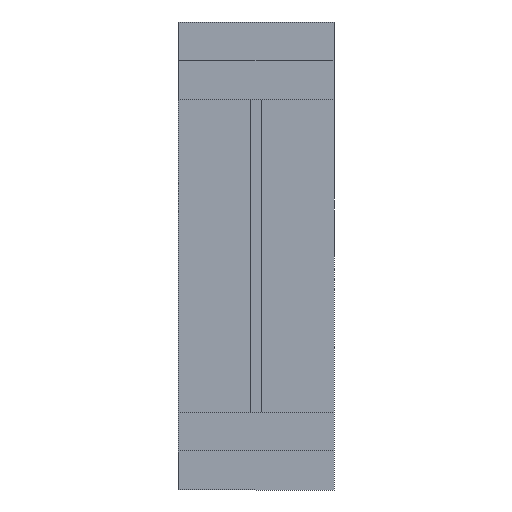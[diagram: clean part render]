
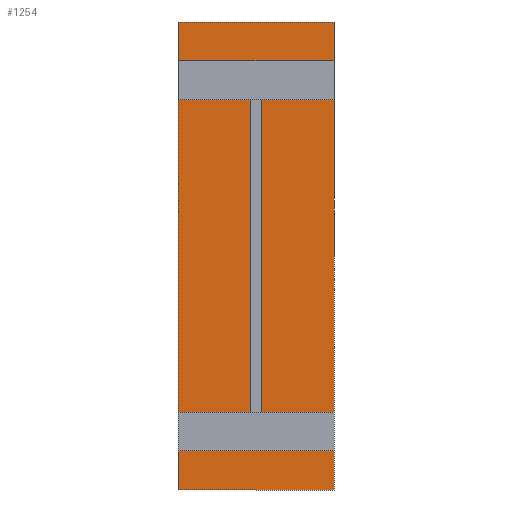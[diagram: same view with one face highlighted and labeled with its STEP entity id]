
A CAD part, front view. The second image highlights one B-rep face of the part: STEP entity #1254.
In plain terms, the highlighted planar face has unit normal (0, -1, 0).
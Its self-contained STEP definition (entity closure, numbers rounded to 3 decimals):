
#4 = VERTEX_POINT ( 'NONE', #891 ) ;
#7 = CARTESIAN_POINT ( 'NONE',  ( 190., 205., 900. ) ) ;
#12 = EDGE_CURVE ( 'NONE', #1295, #67, #103, .T. ) ;
#26 = CARTESIAN_POINT ( 'NONE',  ( 200., 205., 1100. ) ) ;
#40 = DIRECTION ( 'NONE',  ( 0., 0., 1. ) ) ;
#42 = CARTESIAN_POINT ( 'NONE',  ( -200., 205., 1000. ) ) ;
#44 = ORIENTED_EDGE ( 'NONE', *, *, #501, .F. ) ;
#53 = CARTESIAN_POINT ( 'NONE',  ( -190., 205., 100. ) ) ;
#58 = VECTOR ( 'NONE', #1591, 1000. ) ;
#67 = VERTEX_POINT ( 'NONE', #1598 ) ;
#77 = VERTEX_POINT ( 'NONE', #282 ) ;
#103 = LINE ( 'NONE', #649, #1298 ) ;
#113 = CARTESIAN_POINT ( 'NONE',  ( -200., 205., 900. ) ) ;
#124 = LINE ( 'NONE', #1061, #424 ) ;
#126 = DIRECTION ( 'NONE',  ( 0., 0., 1. ) ) ;
#128 = CARTESIAN_POINT ( 'NONE',  ( 200., 205., -100. ) ) ;
#129 = LINE ( 'NONE', #554, #1166 ) ;
#142 = EDGE_CURVE ( 'NONE', #298, #4, #129, .T. ) ;
#155 = ORIENTED_EDGE ( 'NONE', *, *, #1744, .F. ) ;
#176 = DIRECTION ( 'NONE',  ( 1., 0., 0. ) ) ;
#193 = VECTOR ( 'NONE', #1296, 1000. ) ;
#206 = CARTESIAN_POINT ( 'NONE',  ( -200., 205., 900. ) ) ;
#217 = DIRECTION ( 'NONE',  ( -1., 0., 0. ) ) ;
#218 = DIRECTION ( 'NONE',  ( 0., 0., 1. ) ) ;
#243 = VECTOR ( 'NONE', #1101, 1000. ) ;
#281 = CARTESIAN_POINT ( 'NONE',  ( -200., 205., 100. ) ) ;
#282 = CARTESIAN_POINT ( 'NONE',  ( -190., 205., 900. ) ) ;
#296 = CARTESIAN_POINT ( 'NONE',  ( -190., 205., 100. ) ) ;
#297 = EDGE_CURVE ( 'NONE', #1536, #1685, #1433, .T. ) ;
#298 = VERTEX_POINT ( 'NONE', #1187 ) ;
#307 = LINE ( 'NONE', #980, #243 ) ;
#308 = CARTESIAN_POINT ( 'NONE',  ( 200., 205., 900. ) ) ;
#333 = ORIENTED_EDGE ( 'NONE', *, *, #1604, .F. ) ;
#335 = ORIENTED_EDGE ( 'NONE', *, *, #1264, .F. ) ;
#342 = LINE ( 'NONE', #206, #1209 ) ;
#382 = VECTOR ( 'NONE', #490, 1000. ) ;
#383 = CARTESIAN_POINT ( 'NONE',  ( 190., 205., 1000. ) ) ;
#386 = LINE ( 'NONE', #921, #601 ) ;
#392 = CARTESIAN_POINT ( 'NONE',  ( -200., 205., 0. ) ) ;
#399 = DIRECTION ( 'NONE',  ( 0., 0., 1. ) ) ;
#408 = EDGE_CURVE ( 'NONE', #1161, #1249, #1490, .T. ) ;
#424 = VECTOR ( 'NONE', #805, 1000. ) ;
#432 = EDGE_CURVE ( 'NONE', #588, #1680, #1255, .T. ) ;
#477 = ORIENTED_EDGE ( 'NONE', *, *, #408, .F. ) ;
#489 = EDGE_CURVE ( 'NONE', #1680, #1389, #307, .T. ) ;
#490 = DIRECTION ( 'NONE',  ( 0., 0., -1. ) ) ;
#494 = DIRECTION ( 'NONE',  ( 1., 0., 0. ) ) ;
#501 = EDGE_CURVE ( 'NONE', #992, #1472, #1649, .T. ) ;
#524 = VECTOR ( 'NONE', #602, 1000. ) ;
#529 = DIRECTION ( 'NONE',  ( 0., 1., 0. ) ) ;
#531 = DIRECTION ( 'NONE',  ( 0., 0., -1. ) ) ;
#532 = EDGE_CURVE ( 'NONE', #67, #1579, #1408, .T. ) ;
#533 = CARTESIAN_POINT ( 'NONE',  ( -200., 205., 0. ) ) ;
#535 = VECTOR ( 'NONE', #218, 1000. ) ;
#538 = CARTESIAN_POINT ( 'NONE',  ( 200., 205., 900. ) ) ;
#539 = VECTOR ( 'NONE', #1346, 1000. ) ;
#540 = VECTOR ( 'NONE', #820, 1000. ) ;
#543 = ORIENTED_EDGE ( 'NONE', *, *, #1650, .F. ) ;
#544 = LINE ( 'NONE', #1040, #1723 ) ;
#554 = CARTESIAN_POINT ( 'NONE',  ( 200., 205., 100. ) ) ;
#562 = PLANE ( 'NONE',  #1147 ) ;
#582 = CARTESIAN_POINT ( 'NONE',  ( 200., 205., 1100. ) ) ;
#588 = VERTEX_POINT ( 'NONE', #1305 ) ;
#589 = LINE ( 'NONE', #53, #841 ) ;
#601 = VECTOR ( 'NONE', #1456, 1000. ) ;
#602 = DIRECTION ( 'NONE',  ( 1., 0., 0. ) ) ;
#649 = CARTESIAN_POINT ( 'NONE',  ( 200., 205., 0. ) ) ;
#671 = ORIENTED_EDGE ( 'NONE', *, *, #1570, .F. ) ;
#691 = CARTESIAN_POINT ( 'NONE',  ( 0., 205., 0. ) ) ;
#707 = ORIENTED_EDGE ( 'NONE', *, *, #952, .F. ) ;
#716 = EDGE_LOOP ( 'NONE', ( #477, #964, #800, #924, #671, #1281, #707, #44, #1246, #1261, #1476, #1442, #1278, #1121, #1269, #543, #155, #333, #335, #731 ) ) ;
#719 = VECTOR ( 'NONE', #176, 1000. ) ;
#731 = ORIENTED_EDGE ( 'NONE', *, *, #1539, .F. ) ;
#748 = CARTESIAN_POINT ( 'NONE',  ( 200., 205., -100. ) ) ;
#759 = VECTOR ( 'NONE', #126, 1000. ) ;
#786 = VECTOR ( 'NONE', #217, 1000. ) ;
#800 = ORIENTED_EDGE ( 'NONE', *, *, #532, .F. ) ;
#805 = DIRECTION ( 'NONE',  ( -1., 0., 0. ) ) ;
#820 = DIRECTION ( 'NONE',  ( -1., 0., 0. ) ) ;
#841 = VECTOR ( 'NONE', #40, 1000. ) ;
#885 = VERTEX_POINT ( 'NONE', #113 ) ;
#891 = CARTESIAN_POINT ( 'NONE',  ( 190., 205., 100. ) ) ;
#901 = LINE ( 'NONE', #1583, #535 ) ;
#908 = VERTEX_POINT ( 'NONE', #383 ) ;
#921 = CARTESIAN_POINT ( 'NONE',  ( -200., 205., 1100. ) ) ;
#924 = ORIENTED_EDGE ( 'NONE', *, *, #12, .F. ) ;
#928 = CARTESIAN_POINT ( 'NONE',  ( 190., 205., 100. ) ) ;
#932 = DIRECTION ( 'NONE',  ( 0., 0., -1. ) ) ;
#944 = CARTESIAN_POINT ( 'NONE',  ( 200., 205., 1000. ) ) ;
#951 = LINE ( 'NONE', #1343, #719 ) ;
#952 = EDGE_CURVE ( 'NONE', #1472, #298, #1341, .T. ) ;
#963 = DIRECTION ( 'NONE',  ( 1., 0., 0. ) ) ;
#964 = ORIENTED_EDGE ( 'NONE', *, *, #1318, .F. ) ;
#968 = CARTESIAN_POINT ( 'NONE',  ( 190., 205., 900. ) ) ;
#980 = CARTESIAN_POINT ( 'NONE',  ( 200., 205., 1100. ) ) ;
#992 = VERTEX_POINT ( 'NONE', #7 ) ;
#1040 = CARTESIAN_POINT ( 'NONE',  ( 190., 205., 1000. ) ) ;
#1048 = CARTESIAN_POINT ( 'NONE',  ( 200., 205., -100. ) ) ;
#1061 = CARTESIAN_POINT ( 'NONE',  ( -200., 205., 100. ) ) ;
#1064 = EDGE_CURVE ( 'NONE', #77, #1536, #901, .T. ) ;
#1080 = LINE ( 'NONE', #944, #540 ) ;
#1082 = VECTOR ( 'NONE', #963, 1000. ) ;
#1101 = DIRECTION ( 'NONE',  ( 0., 0., -1. ) ) ;
#1121 = ORIENTED_EDGE ( 'NONE', *, *, #297, .F. ) ;
#1147 = AXIS2_PLACEMENT_3D ( 'NONE', #691, #529, #399 ) ;
#1159 = CARTESIAN_POINT ( 'NONE',  ( -200., 205., 1000. ) ) ;
#1161 = VERTEX_POINT ( 'NONE', #1208 ) ;
#1166 = VECTOR ( 'NONE', #1461, 1000. ) ;
#1184 = LINE ( 'NONE', #928, #193 ) ;
#1187 = CARTESIAN_POINT ( 'NONE',  ( 200., 205., 100. ) ) ;
#1208 = CARTESIAN_POINT ( 'NONE',  ( -200., 205., -100. ) ) ;
#1209 = VECTOR ( 'NONE', #1551, 1000. ) ;
#1246 = ORIENTED_EDGE ( 'NONE', *, *, #1537, .F. ) ;
#1249 = VERTEX_POINT ( 'NONE', #533 ) ;
#1254 = ADVANCED_FACE ( 'NONE', ( #1484 ), #562, .F. ) ;
#1255 = LINE ( 'NONE', #26, #1082 ) ;
#1261 = ORIENTED_EDGE ( 'NONE', *, *, #1721, .F. ) ;
#1264 = EDGE_CURVE ( 'NONE', #1557, #1664, #589, .T. ) ;
#1269 = ORIENTED_EDGE ( 'NONE', *, *, #1064, .F. ) ;
#1278 = ORIENTED_EDGE ( 'NONE', *, *, #1589, .F. ) ;
#1281 = ORIENTED_EDGE ( 'NONE', *, *, #142, .F. ) ;
#1295 = VERTEX_POINT ( 'NONE', #1359 ) ;
#1296 = DIRECTION ( 'NONE',  ( 0., 0., -1. ) ) ;
#1298 = VECTOR ( 'NONE', #494, 1000. ) ;
#1305 = CARTESIAN_POINT ( 'NONE',  ( -200., 205., 1100. ) ) ;
#1314 = LINE ( 'NONE', #1444, #58 ) ;
#1318 = EDGE_CURVE ( 'NONE', #1579, #1161, #1467, .T. ) ;
#1334 = CARTESIAN_POINT ( 'NONE',  ( -190., 205., 0. ) ) ;
#1341 = LINE ( 'NONE', #538, #1370 ) ;
#1343 = CARTESIAN_POINT ( 'NONE',  ( -190., 205., 900. ) ) ;
#1346 = DIRECTION ( 'NONE',  ( -1., 0., 0. ) ) ;
#1359 = CARTESIAN_POINT ( 'NONE',  ( 190., 205., 0. ) ) ;
#1370 = VECTOR ( 'NONE', #932, 1000. ) ;
#1374 = VERTEX_POINT ( 'NONE', #281 ) ;
#1389 = VERTEX_POINT ( 'NONE', #1613 ) ;
#1408 = LINE ( 'NONE', #748, #382 ) ;
#1433 = LINE ( 'NONE', #1159, #786 ) ;
#1442 = ORIENTED_EDGE ( 'NONE', *, *, #432, .F. ) ;
#1444 = CARTESIAN_POINT ( 'NONE',  ( -190., 205., 0. ) ) ;
#1456 = DIRECTION ( 'NONE',  ( 0., 0., 1. ) ) ;
#1461 = DIRECTION ( 'NONE',  ( -1., 0., 0. ) ) ;
#1467 = LINE ( 'NONE', #128, #539 ) ;
#1472 = VERTEX_POINT ( 'NONE', #308 ) ;
#1476 = ORIENTED_EDGE ( 'NONE', *, *, #489, .F. ) ;
#1484 = FACE_OUTER_BOUND ( 'NONE', #716, .T. ) ;
#1490 = LINE ( 'NONE', #392, #759 ) ;
#1536 = VERTEX_POINT ( 'NONE', #1572 ) ;
#1537 = EDGE_CURVE ( 'NONE', #908, #992, #544, .T. ) ;
#1539 = EDGE_CURVE ( 'NONE', #1249, #1557, #1314, .T. ) ;
#1551 = DIRECTION ( 'NONE',  ( 0., 0., 1. ) ) ;
#1557 = VERTEX_POINT ( 'NONE', #1334 ) ;
#1570 = EDGE_CURVE ( 'NONE', #4, #1295, #1184, .T. ) ;
#1572 = CARTESIAN_POINT ( 'NONE',  ( -190., 205., 1000. ) ) ;
#1579 = VERTEX_POINT ( 'NONE', #1048 ) ;
#1583 = CARTESIAN_POINT ( 'NONE',  ( -190., 205., 1000. ) ) ;
#1589 = EDGE_CURVE ( 'NONE', #1685, #588, #386, .T. ) ;
#1591 = DIRECTION ( 'NONE',  ( 1., 0., 0. ) ) ;
#1598 = CARTESIAN_POINT ( 'NONE',  ( 200., 205., 0. ) ) ;
#1604 = EDGE_CURVE ( 'NONE', #1664, #1374, #124, .T. ) ;
#1613 = CARTESIAN_POINT ( 'NONE',  ( 200., 205., 1000. ) ) ;
#1649 = LINE ( 'NONE', #968, #524 ) ;
#1650 = EDGE_CURVE ( 'NONE', #885, #77, #951, .T. ) ;
#1664 = VERTEX_POINT ( 'NONE', #296 ) ;
#1680 = VERTEX_POINT ( 'NONE', #582 ) ;
#1685 = VERTEX_POINT ( 'NONE', #42 ) ;
#1721 = EDGE_CURVE ( 'NONE', #1389, #908, #1080, .T. ) ;
#1723 = VECTOR ( 'NONE', #531, 1000. ) ;
#1744 = EDGE_CURVE ( 'NONE', #1374, #885, #342, .T. ) ;
